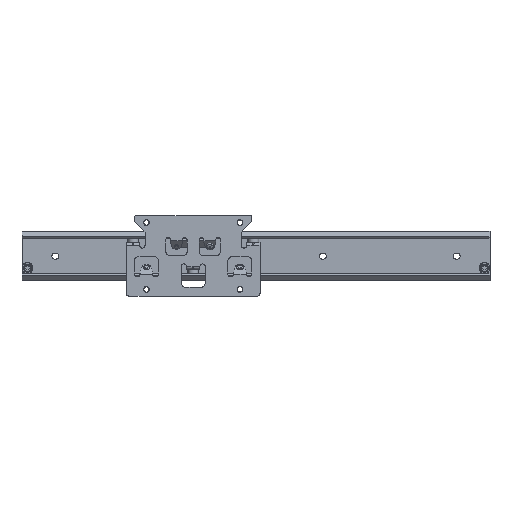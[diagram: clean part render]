
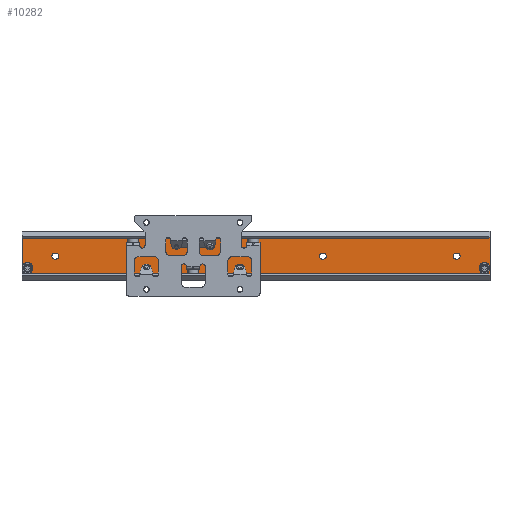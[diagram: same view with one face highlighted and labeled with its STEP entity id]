
A CAD part, top view. The second image highlights one B-rep face of the part: STEP entity #10282.
In plain terms, the highlighted planar face has unit normal (0, 0, 1).
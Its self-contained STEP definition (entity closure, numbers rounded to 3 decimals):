
#10077=CARTESIAN_POINT('',(356.032,307.71,-28.214));
#10078=VERTEX_POINT('',#10077);
#10079=CARTESIAN_POINT('',(356.032,341.71,-28.214));
#10080=VERTEX_POINT('',#10079);
#10081=CARTESIAN_POINT('',(356.032,341.71,-28.214));
#10082=DIRECTION('',(0.,1.,0.));
#10083=VECTOR('',#10082,1.);
#10084=LINE('',#10081,#10083);
#10085=EDGE_CURVE('',#10078,#10080,#10084,.T.);
#10086=ORIENTED_EDGE('',*,*,#10085,.T.);
#10087=CARTESIAN_POINT('',(6.032,341.71,-28.214));
#10088=VERTEX_POINT('',#10087);
#10089=CARTESIAN_POINT('',(6.032,341.71,-28.214));
#10090=DIRECTION('',(1.,0.,0.));
#10091=VECTOR('',#10090,1.);
#10092=LINE('',#10089,#10091);
#10093=EDGE_CURVE('',#10088,#10080,#10092,.T.);
#10094=ORIENTED_EDGE('',*,*,#10093,.F.);
#10095=CARTESIAN_POINT('',(6.032,307.71,-28.214));
#10096=VERTEX_POINT('',#10095);
#10097=CARTESIAN_POINT('',(6.032,341.71,-28.214));
#10098=DIRECTION('',(0.,-1.,0.));
#10099=VECTOR('',#10098,1.);
#10100=LINE('',#10097,#10099);
#10101=EDGE_CURVE('',#10088,#10096,#10100,.T.);
#10102=ORIENTED_EDGE('',*,*,#10101,.T.);
#10103=CARTESIAN_POINT('',(6.032,307.71,-28.214));
#10104=DIRECTION('',(1.,0.,0.));
#10105=VECTOR('',#10104,1.);
#10106=LINE('',#10103,#10105);
#10107=EDGE_CURVE('',#10096,#10078,#10106,.T.);
#10108=ORIENTED_EDGE('',*,*,#10107,.T.);
#10109=EDGE_LOOP('',(#10086,#10094,#10102,#10108));
#10110=FACE_OUTER_BOUND('',#10109,.T.);
#10111=CARTESIAN_POINT('',(350.579,315.71,-28.214));
#10112=VERTEX_POINT('',#10111);
#10113=CARTESIAN_POINT('',(351.932,315.71,-28.214));
#10114=DIRECTION('',(0.,0.,-1.));
#10115=DIRECTION('',(1.,0.,0.));
#10116=AXIS2_PLACEMENT_3D('',#10113,#10114,#10115);
#10117=CIRCLE('',#10116,1.353);
#10118=EDGE_CURVE('',#10112,#10112,#10117,.T.);
#10119=ORIENTED_EDGE('',*,*,#10118,.T.);
#10120=EDGE_LOOP('',(#10119));
#10121=FACE_BOUND('',#10120,.T.);
#10122=CARTESIAN_POINT('',(11.485,315.71,-28.214));
#10123=VERTEX_POINT('',#10122);
#10124=CARTESIAN_POINT('',(10.132,315.71,-28.214));
#10125=DIRECTION('',(0.,0.,-1.));
#10126=DIRECTION('',(-1.,0.,0.));
#10127=AXIS2_PLACEMENT_3D('',#10124,#10125,#10126);
#10128=CIRCLE('',#10127,1.353);
#10129=EDGE_CURVE('',#10123,#10123,#10128,.T.);
#10130=ORIENTED_EDGE('',*,*,#10129,.T.);
#10131=EDGE_LOOP('',(#10130));
#10132=FACE_BOUND('',#10131,.T.);
#10133=CARTESIAN_POINT('',(331.382,327.01,-28.214));
#10134=VERTEX_POINT('',#10133);
#10135=CARTESIAN_POINT('',(331.382,322.41,-28.214));
#10136=VERTEX_POINT('',#10135);
#10137=CARTESIAN_POINT('',(331.382,324.71,-28.214));
#10138=DIRECTION('',(0.,0.,-1.));
#10139=DIRECTION('',(1.,0.,0.));
#10140=AXIS2_PLACEMENT_3D('',#10137,#10138,#10139);
#10141=CIRCLE('',#10140,2.3);
#10142=EDGE_CURVE('',#10134,#10136,#10141,.T.);
#10143=ORIENTED_EDGE('',*,*,#10142,.T.);
#10144=CARTESIAN_POINT('',(330.682,322.41,-28.214));
#10145=VERTEX_POINT('',#10144);
#10146=CARTESIAN_POINT('',(168.532,322.41,-28.214));
#10147=DIRECTION('',(-1.,0.,0.));
#10148=VECTOR('',#10147,1.);
#10149=LINE('',#10146,#10148);
#10150=EDGE_CURVE('',#10136,#10145,#10149,.T.);
#10151=ORIENTED_EDGE('',*,*,#10150,.T.);
#10152=CARTESIAN_POINT('',(330.682,327.01,-28.214));
#10153=VERTEX_POINT('',#10152);
#10154=CARTESIAN_POINT('',(330.682,324.71,-28.214));
#10155=DIRECTION('',(0.,0.,-1.));
#10156=DIRECTION('',(1.,0.,0.));
#10157=AXIS2_PLACEMENT_3D('',#10154,#10155,#10156);
#10158=CIRCLE('',#10157,2.3);
#10159=EDGE_CURVE('',#10145,#10153,#10158,.T.);
#10160=ORIENTED_EDGE('',*,*,#10159,.T.);
#10161=CARTESIAN_POINT('',(168.532,327.01,-28.214));
#10162=DIRECTION('',(1.,0.,0.));
#10163=VECTOR('',#10162,1.);
#10164=LINE('',#10161,#10163);
#10165=EDGE_CURVE('',#10153,#10134,#10164,.T.);
#10166=ORIENTED_EDGE('',*,*,#10165,.T.);
#10167=EDGE_LOOP('',(#10143,#10151,#10160,#10166));
#10168=FACE_BOUND('',#10167,.T.);
#10169=CARTESIAN_POINT('',(231.382,327.01,-28.214));
#10170=VERTEX_POINT('',#10169);
#10171=CARTESIAN_POINT('',(231.382,322.41,-28.214));
#10172=VERTEX_POINT('',#10171);
#10173=CARTESIAN_POINT('',(231.382,324.71,-28.214));
#10174=DIRECTION('',(0.,0.,-1.));
#10175=DIRECTION('',(1.,0.,0.));
#10176=AXIS2_PLACEMENT_3D('',#10173,#10174,#10175);
#10177=CIRCLE('',#10176,2.3);
#10178=EDGE_CURVE('',#10170,#10172,#10177,.T.);
#10179=ORIENTED_EDGE('',*,*,#10178,.T.);
#10180=CARTESIAN_POINT('',(230.682,322.41,-28.214));
#10181=VERTEX_POINT('',#10180);
#10182=CARTESIAN_POINT('',(118.532,322.41,-28.214));
#10183=DIRECTION('',(-1.,0.,0.));
#10184=VECTOR('',#10183,1.);
#10185=LINE('',#10182,#10184);
#10186=EDGE_CURVE('',#10172,#10181,#10185,.T.);
#10187=ORIENTED_EDGE('',*,*,#10186,.T.);
#10188=CARTESIAN_POINT('',(230.682,327.01,-28.214));
#10189=VERTEX_POINT('',#10188);
#10190=CARTESIAN_POINT('',(230.682,324.71,-28.214));
#10191=DIRECTION('',(0.,0.,-1.));
#10192=DIRECTION('',(1.,0.,0.));
#10193=AXIS2_PLACEMENT_3D('',#10190,#10191,#10192);
#10194=CIRCLE('',#10193,2.3);
#10195=EDGE_CURVE('',#10181,#10189,#10194,.T.);
#10196=ORIENTED_EDGE('',*,*,#10195,.T.);
#10197=CARTESIAN_POINT('',(118.532,327.01,-28.214));
#10198=DIRECTION('',(1.,0.,0.));
#10199=VECTOR('',#10198,1.);
#10200=LINE('',#10197,#10199);
#10201=EDGE_CURVE('',#10189,#10170,#10200,.T.);
#10202=ORIENTED_EDGE('',*,*,#10201,.T.);
#10203=EDGE_LOOP('',(#10179,#10187,#10196,#10202));
#10204=FACE_BOUND('',#10203,.T.);
#10205=CARTESIAN_POINT('',(131.382,322.41,-28.214));
#10206=VERTEX_POINT('',#10205);
#10207=CARTESIAN_POINT('',(130.682,322.41,-28.214));
#10208=VERTEX_POINT('',#10207);
#10209=CARTESIAN_POINT('',(68.532,322.41,-28.214));
#10210=DIRECTION('',(-1.,0.,0.));
#10211=VECTOR('',#10210,1.);
#10212=LINE('',#10209,#10211);
#10213=EDGE_CURVE('',#10206,#10208,#10212,.T.);
#10214=ORIENTED_EDGE('',*,*,#10213,.T.);
#10215=CARTESIAN_POINT('',(130.682,327.01,-28.214));
#10216=VERTEX_POINT('',#10215);
#10217=CARTESIAN_POINT('',(130.682,324.71,-28.214));
#10218=DIRECTION('',(0.,0.,-1.));
#10219=DIRECTION('',(1.,0.,0.));
#10220=AXIS2_PLACEMENT_3D('',#10217,#10218,#10219);
#10221=CIRCLE('',#10220,2.3);
#10222=EDGE_CURVE('',#10208,#10216,#10221,.T.);
#10223=ORIENTED_EDGE('',*,*,#10222,.T.);
#10224=CARTESIAN_POINT('',(131.382,327.01,-28.214));
#10225=VERTEX_POINT('',#10224);
#10226=CARTESIAN_POINT('',(68.532,327.01,-28.214));
#10227=DIRECTION('',(1.,0.,0.));
#10228=VECTOR('',#10227,1.);
#10229=LINE('',#10226,#10228);
#10230=EDGE_CURVE('',#10216,#10225,#10229,.T.);
#10231=ORIENTED_EDGE('',*,*,#10230,.T.);
#10232=CARTESIAN_POINT('',(131.382,324.71,-28.214));
#10233=DIRECTION('',(0.,0.,-1.));
#10234=DIRECTION('',(1.,0.,0.));
#10235=AXIS2_PLACEMENT_3D('',#10232,#10233,#10234);
#10236=CIRCLE('',#10235,2.3);
#10237=EDGE_CURVE('',#10225,#10206,#10236,.T.);
#10238=ORIENTED_EDGE('',*,*,#10237,.T.);
#10239=EDGE_LOOP('',(#10214,#10223,#10231,#10238));
#10240=FACE_BOUND('',#10239,.T.);
#10241=CARTESIAN_POINT('',(30.682,322.41,-28.214));
#10242=VERTEX_POINT('',#10241);
#10243=CARTESIAN_POINT('',(30.682,327.01,-28.214));
#10244=VERTEX_POINT('',#10243);
#10245=CARTESIAN_POINT('',(30.682,324.71,-28.214));
#10246=DIRECTION('',(0.,0.,-1.));
#10247=DIRECTION('',(1.,0.,0.));
#10248=AXIS2_PLACEMENT_3D('',#10245,#10246,#10247);
#10249=CIRCLE('',#10248,2.3);
#10250=EDGE_CURVE('',#10242,#10244,#10249,.T.);
#10251=ORIENTED_EDGE('',*,*,#10250,.T.);
#10252=CARTESIAN_POINT('',(31.382,327.01,-28.214));
#10253=VERTEX_POINT('',#10252);
#10254=CARTESIAN_POINT('',(18.532,327.01,-28.214));
#10255=DIRECTION('',(1.,0.,0.));
#10256=VECTOR('',#10255,1.);
#10257=LINE('',#10254,#10256);
#10258=EDGE_CURVE('',#10244,#10253,#10257,.T.);
#10259=ORIENTED_EDGE('',*,*,#10258,.T.);
#10260=CARTESIAN_POINT('',(31.382,322.41,-28.214));
#10261=VERTEX_POINT('',#10260);
#10262=CARTESIAN_POINT('',(31.382,324.71,-28.214));
#10263=DIRECTION('',(0.,0.,-1.));
#10264=DIRECTION('',(1.,0.,0.));
#10265=AXIS2_PLACEMENT_3D('',#10262,#10263,#10264);
#10266=CIRCLE('',#10265,2.3);
#10267=EDGE_CURVE('',#10253,#10261,#10266,.T.);
#10268=ORIENTED_EDGE('',*,*,#10267,.T.);
#10269=CARTESIAN_POINT('',(18.532,322.41,-28.214));
#10270=DIRECTION('',(-1.,0.,0.));
#10271=VECTOR('',#10270,1.);
#10272=LINE('',#10269,#10271);
#10273=EDGE_CURVE('',#10261,#10242,#10272,.T.);
#10274=ORIENTED_EDGE('',*,*,#10273,.T.);
#10275=EDGE_LOOP('',(#10251,#10259,#10268,#10274));
#10276=FACE_BOUND('',#10275,.T.);
#10277=CARTESIAN_POINT('',(6.032,324.71,-28.214));
#10278=DIRECTION('',(0.,0.,1.));
#10279=DIRECTION('',(0.,-1.,0.));
#10280=AXIS2_PLACEMENT_3D('',#10277,#10278,#10279);
#10281=PLANE('',#10280);
#10282=ADVANCED_FACE('',(#10110,#10121,#10132,#10168,#10204,#10240,#10276),#10281,.T.);
